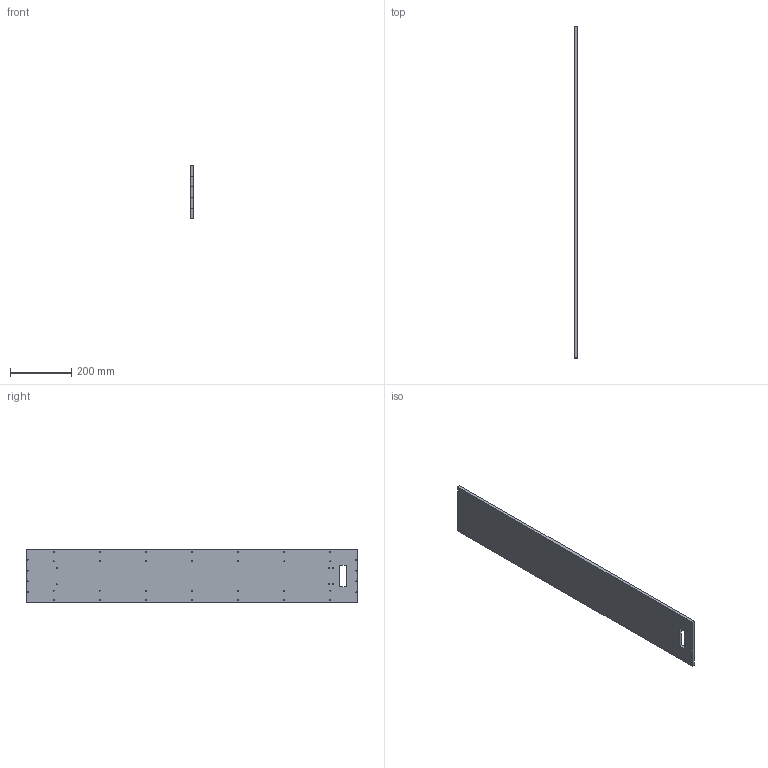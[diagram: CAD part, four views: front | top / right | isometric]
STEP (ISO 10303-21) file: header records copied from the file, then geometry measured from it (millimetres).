
FILE_DESCRIPTION(('CATIA V5 STEP Exchange'),'2;1');
FILE_NAME('E:\CNC\CNC_REV3_PLAN_FINAL\FICHIERS POUR USINAGE DES PIECES PORTIQUE\PIECES_AVEC_TROU\AXE_Y_HAUT.stp','2016-09-06T20:12:01+00:00',('none'),('none'),'CATIA Version 5 Release 19 SP 2 (IN-10)','CATIA V5 STEP AP203','none');
FILE_SCHEMA(('CONFIG_CONTROL_DESIGN'));
Length unit declared in the file: millimetre
Products named in the file (1): Back_Axe_Y
Bounding box: 10 x 1080 x 175 mm (x, y, z)
Volume: 1871631.2 mm3; surface area: 405224.6 mm2
Topology: 1 solids, 1 shells, 94 faces, 276 edges, 184 vertices
Faces by surface type: cylinder 84, plane 10
Entity records: 3064 total; most frequent: ORIENTED_EDGE 552, CARTESIAN_POINT 513, DIRECTION 380, EDGE_CURVE 276, AXIS2_PLACEMENT_3D 221, VERTEX_POINT 184, EDGE_LOOP 180, CIRCLE 168
